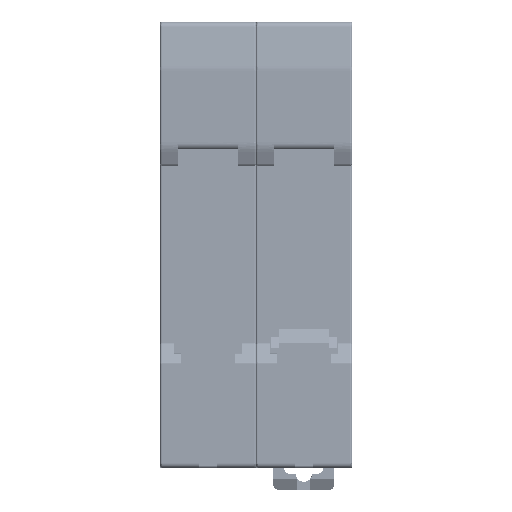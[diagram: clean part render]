
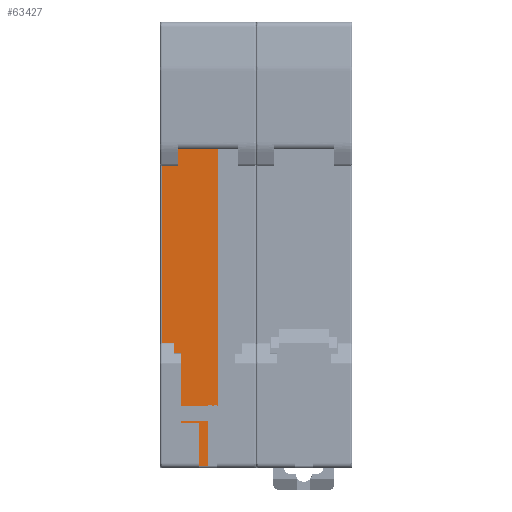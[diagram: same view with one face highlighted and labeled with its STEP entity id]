
A CAD part, left-side view. The second image highlights one B-rep face of the part: STEP entity #63427.
In plain terms, the highlighted planar face has unit normal (-1, 0, 0).
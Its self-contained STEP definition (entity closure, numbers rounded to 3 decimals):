
#1707 = DIRECTION ( 'NONE',  ( 0., -1., 0. ) ) ;
#2814 = LINE ( 'NONE', #194159, #163014 ) ;
#3159 = EDGE_CURVE ( 'NONE', #266604, #103034, #214726, .T. ) ;
#3822 = DIRECTION ( 'NONE',  ( 0., 0., -1. ) ) ;
#9082 = DIRECTION ( 'NONE',  ( 0., 1., 0. ) ) ;
#11158 = CARTESIAN_POINT ( 'NONE',  ( 5.5, 26.1, -0.5 ) ) ;
#14252 = EDGE_CURVE ( 'NONE', #269358, #27519, #234483, .T. ) ;
#16843 = LINE ( 'NONE', #101501, #188573 ) ;
#17755 = DIRECTION ( 'NONE',  ( 0., 1., 0. ) ) ;
#18131 = LINE ( 'NONE', #251013, #58234 ) ;
#20480 = DIRECTION ( 'NONE',  ( 0., -0.33, 0.944 ) ) ;
#25196 = DIRECTION ( 'NONE',  ( 0., 1., 0. ) ) ;
#25977 = CARTESIAN_POINT ( 'NONE',  ( 5.5, 24.3, 21.4 ) ) ;
#27519 = VERTEX_POINT ( 'NONE', #226346 ) ;
#27966 = LINE ( 'NONE', #213746, #115171 ) ;
#30299 = VECTOR ( 'NONE', #273760, 1000. ) ;
#34580 = ORIENTED_EDGE ( 'NONE', *, *, #51221, .F. ) ;
#35147 = ORIENTED_EDGE ( 'NONE', *, *, #113575, .F. ) ;
#37581 = CARTESIAN_POINT ( 'NONE',  ( 5.5, 32.4, 15.4 ) ) ;
#41629 = DIRECTION ( 'NONE',  ( 0., 0., 1. ) ) ;
#44535 = ORIENTED_EDGE ( 'NONE', *, *, #168161, .F. ) ;
#44649 = DIRECTION ( 'NONE',  ( 0., -0.894, 0.447 ) ) ;
#50943 = VECTOR ( 'NONE', #171598, 1000. ) ;
#51221 = EDGE_CURVE ( 'NONE', #159321, #263277, #211804, .T. ) ;
#53320 = CARTESIAN_POINT ( 'NONE',  ( 5.5, 31.1, 7.7 ) ) ;
#54862 = VECTOR ( 'NONE', #20480, 1000. ) ;
#55377 = LINE ( 'NONE', #227110, #115845 ) ;
#57106 = AXIS2_PLACEMENT_3D ( 'NONE', #273299, #209558, #83474 ) ;
#57242 = EDGE_CURVE ( 'NONE', #27519, #59880, #151575, .T. ) ;
#58234 = VECTOR ( 'NONE', #61234, 1000. ) ;
#59858 = EDGE_CURVE ( 'NONE', #149932, #270394, #16843, .T. ) ;
#59880 = VERTEX_POINT ( 'NONE', #106965 ) ;
#61234 = DIRECTION ( 'NONE',  ( 0., 0.331, 0.944 ) ) ;
#63427 = ADVANCED_FACE ( 'NONE', ( #72614 ), #158548, .F. ) ;
#64052 = VECTOR ( 'NONE', #1707, 1000. ) ;
#72614 = FACE_OUTER_BOUND ( 'NONE', #203515, .T. ) ;
#77130 = ORIENTED_EDGE ( 'NONE', *, *, #268520, .F. ) ;
#80129 = EDGE_CURVE ( 'NONE', #268360, #256953, #193416, .T. ) ;
#83474 = DIRECTION ( 'NONE',  ( 0., 0., 1. ) ) ;
#90017 = EDGE_CURVE ( 'NONE', #270394, #202245, #107138, .T. ) ;
#97814 = CARTESIAN_POINT ( 'NONE',  ( 5.5, 35., 10.5 ) ) ;
#98613 = VERTEX_POINT ( 'NONE', #37581 ) ;
#101501 = CARTESIAN_POINT ( 'NONE',  ( 5.5, 31.1, 21.4 ) ) ;
#102543 = ORIENTED_EDGE ( 'NONE', *, *, #90017, .F. ) ;
#103034 = VERTEX_POINT ( 'NONE', #176959 ) ;
#105567 = DIRECTION ( 'NONE',  ( 0., 0., -1. ) ) ;
#106965 = CARTESIAN_POINT ( 'NONE',  ( 5.5, 32.4, 22. ) ) ;
#107138 = LINE ( 'NONE', #126577, #64052 ) ;
#113575 = EDGE_CURVE ( 'NONE', #268360, #190230, #2814, .T. ) ;
#115171 = VECTOR ( 'NONE', #25196, 1000. ) ;
#115566 = DIRECTION ( 'NONE',  ( 0., -1., 0. ) ) ;
#115845 = VECTOR ( 'NONE', #17755, 1000. ) ;
#119607 = CARTESIAN_POINT ( 'NONE',  ( 5.5, 31.1, 10.5 ) ) ;
#121445 = ORIENTED_EDGE ( 'NONE', *, *, #127948, .F. ) ;
#126577 = CARTESIAN_POINT ( 'NONE',  ( 5.5, 35., 7.7 ) ) ;
#127307 = CARTESIAN_POINT ( 'NONE',  ( 5.5, 26.1, 40. ) ) ;
#127948 = EDGE_CURVE ( 'NONE', #162825, #256953, #27966, .T. ) ;
#132614 = CARTESIAN_POINT ( 'NONE',  ( 5.5, 24.3, 10.5 ) ) ;
#133614 = LINE ( 'NONE', #238844, #212081 ) ;
#146745 = LINE ( 'NONE', #209080, #54862 ) ;
#146841 = CARTESIAN_POINT ( 'NONE',  ( 5.5, 24.3, 57.6 ) ) ;
#146849 = VECTOR ( 'NONE', #9082, 1000. ) ;
#147018 = CARTESIAN_POINT ( 'NONE',  ( 5.5, 34.6, 187.895 ) ) ;
#149630 = CARTESIAN_POINT ( 'NONE',  ( 5.5, 32.1, -0.5 ) ) ;
#149932 = VERTEX_POINT ( 'NONE', #119607 ) ;
#150987 = VECTOR ( 'NONE', #44649, 1000. ) ;
#151575 = LINE ( 'NONE', #220243, #208861 ) ;
#158548 = PLANE ( 'NONE',  #57106 ) ;
#159321 = VERTEX_POINT ( 'NONE', #146841 ) ;
#160814 = EDGE_CURVE ( 'NONE', #162825, #202245, #254706, .T. ) ;
#162547 = CARTESIAN_POINT ( 'NONE',  ( 5.5, 33.5, 12.25 ) ) ;
#162825 = VERTEX_POINT ( 'NONE', #11158 ) ;
#163014 = VECTOR ( 'NONE', #256454, 1000. ) ;
#165733 = CARTESIAN_POINT ( 'NONE',  ( 5.5, 33.4, 18.25 ) ) ;
#168161 = EDGE_CURVE ( 'NONE', #59880, #266604, #55377, .T. ) ;
#171253 = CARTESIAN_POINT ( 'NONE',  ( 5.5, 32.1, 40. ) ) ;
#171598 = DIRECTION ( 'NONE',  ( 0., 0., 1. ) ) ;
#174070 = ORIENTED_EDGE ( 'NONE', *, *, #233496, .F. ) ;
#175686 = ORIENTED_EDGE ( 'NONE', *, *, #178683, .F. ) ;
#176834 = ORIENTED_EDGE ( 'NONE', *, *, #270740, .F. ) ;
#176959 = CARTESIAN_POINT ( 'NONE',  ( 5.5, 34.6, 57.6 ) ) ;
#178683 = EDGE_CURVE ( 'NONE', #190230, #98613, #146745, .T. ) ;
#188573 = VECTOR ( 'NONE', #105567, 1000. ) ;
#190230 = VERTEX_POINT ( 'NONE', #162547 ) ;
#193416 = LINE ( 'NONE', #171253, #30299 ) ;
#194159 = CARTESIAN_POINT ( 'NONE',  ( 5.5, 32.1, 8.9 ) ) ;
#202245 = VERTEX_POINT ( 'NONE', #229313 ) ;
#203515 = EDGE_LOOP ( 'NONE', ( #256634, #121445, #213529, #102543, #258864, #174070, #34580, #77130, #229450, #44535, #250620, #204316, #176834, #175686, #35147 ) ) ;
#204316 = ORIENTED_EDGE ( 'NONE', *, *, #14252, .F. ) ;
#208861 = VECTOR ( 'NONE', #252661, 1000. ) ;
#209080 = CARTESIAN_POINT ( 'NONE',  ( 5.5, 33.5, 12.25 ) ) ;
#209558 = DIRECTION ( 'NONE',  ( 1., 0., 0. ) ) ;
#209882 = CARTESIAN_POINT ( 'NONE',  ( 5.5, 32.1, 8.9 ) ) ;
#211804 = LINE ( 'NONE', #25977, #263179 ) ;
#212081 = VECTOR ( 'NONE', #115566, 1000. ) ;
#213529 = ORIENTED_EDGE ( 'NONE', *, *, #160814, .T. ) ;
#213746 = CARTESIAN_POINT ( 'NONE',  ( 5.5, 57.843, -0.5 ) ) ;
#214726 = LINE ( 'NONE', #147018, #258558 ) ;
#218180 = CARTESIAN_POINT ( 'NONE',  ( 5.5, 34.6, 22. ) ) ;
#219746 = LINE ( 'NONE', #97814, #146849 ) ;
#220243 = CARTESIAN_POINT ( 'NONE',  ( 5.5, 32.4, 21.4 ) ) ;
#226346 = CARTESIAN_POINT ( 'NONE',  ( 5.5, 32.4, 18.75 ) ) ;
#227110 = CARTESIAN_POINT ( 'NONE',  ( 5.5, 35., 22. ) ) ;
#229313 = CARTESIAN_POINT ( 'NONE',  ( 5.5, 26.1, 7.7 ) ) ;
#229450 = ORIENTED_EDGE ( 'NONE', *, *, #3159, .F. ) ;
#233496 = EDGE_CURVE ( 'NONE', #263277, #149932, #219746, .T. ) ;
#234483 = LINE ( 'NONE', #249867, #150987 ) ;
#238844 = CARTESIAN_POINT ( 'NONE',  ( 5.5, 35., 57.6 ) ) ;
#249867 = CARTESIAN_POINT ( 'NONE',  ( 5.5, 33.4, 18.25 ) ) ;
#250620 = ORIENTED_EDGE ( 'NONE', *, *, #57242, .F. ) ;
#251013 = CARTESIAN_POINT ( 'NONE',  ( 5.5, 32.4, 15.4 ) ) ;
#252661 = DIRECTION ( 'NONE',  ( 0., 0., 1. ) ) ;
#254706 = LINE ( 'NONE', #127307, #50943 ) ;
#256454 = DIRECTION ( 'NONE',  ( 0., 0.386, 0.923 ) ) ;
#256634 = ORIENTED_EDGE ( 'NONE', *, *, #80129, .T. ) ;
#256953 = VERTEX_POINT ( 'NONE', #149630 ) ;
#258558 = VECTOR ( 'NONE', #41629, 1000. ) ;
#258864 = ORIENTED_EDGE ( 'NONE', *, *, #59858, .F. ) ;
#263179 = VECTOR ( 'NONE', #3822, 1000. ) ;
#263277 = VERTEX_POINT ( 'NONE', #132614 ) ;
#266604 = VERTEX_POINT ( 'NONE', #218180 ) ;
#268360 = VERTEX_POINT ( 'NONE', #209882 ) ;
#268520 = EDGE_CURVE ( 'NONE', #103034, #159321, #133614, .T. ) ;
#269358 = VERTEX_POINT ( 'NONE', #165733 ) ;
#270394 = VERTEX_POINT ( 'NONE', #53320 ) ;
#270740 = EDGE_CURVE ( 'NONE', #98613, #269358, #18131, .T. ) ;
#273299 = CARTESIAN_POINT ( 'NONE',  ( 5.5, 35., 21.4 ) ) ;
#273760 = DIRECTION ( 'NONE',  ( 0., 0., -1. ) ) ;
